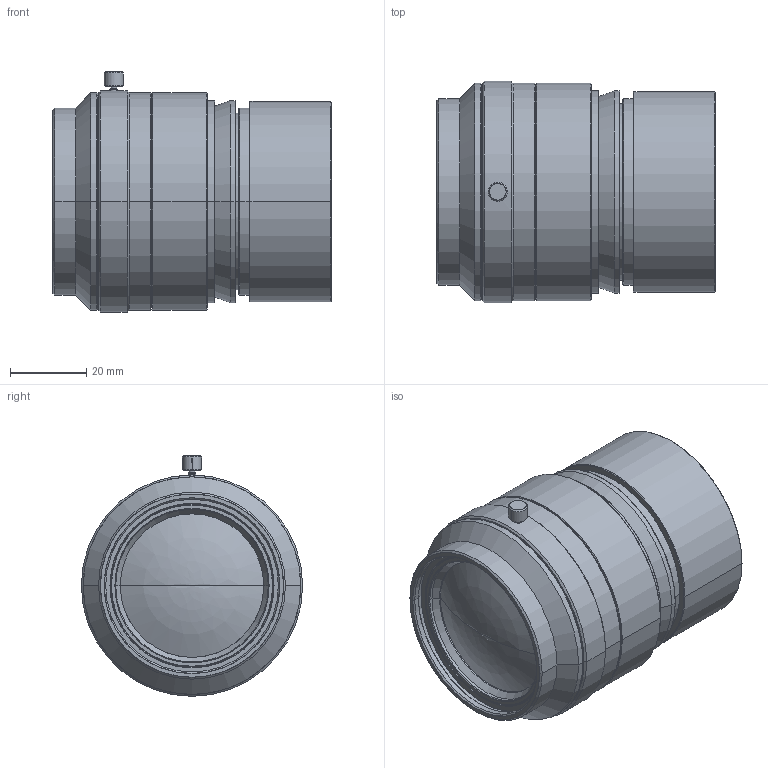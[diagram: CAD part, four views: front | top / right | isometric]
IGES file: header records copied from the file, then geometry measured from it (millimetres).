
Start section: SolidWorks IGES file using analytic representation for surfaces
Global section: file name: C:\Users\tsuji_vst\Documents\【図面】\_3D\00 VST\VS-L\VS-L12035-1_V.IGS; native system: SolidWorks 2015; preprocessor: SolidWorks 2015; author: tsuji_vst; date: 151110.091639; units: millimetre
Bounding box: 72.99 x 58 x 63.05 mm (x, y, z)
Surface area: 20625.7 mm2 (no closed solid volume)
Topology: 0 solids, 0 shells, 119 faces, 2454 edges, 2452 vertices
Faces by surface type: revolution 102, bspline 17
